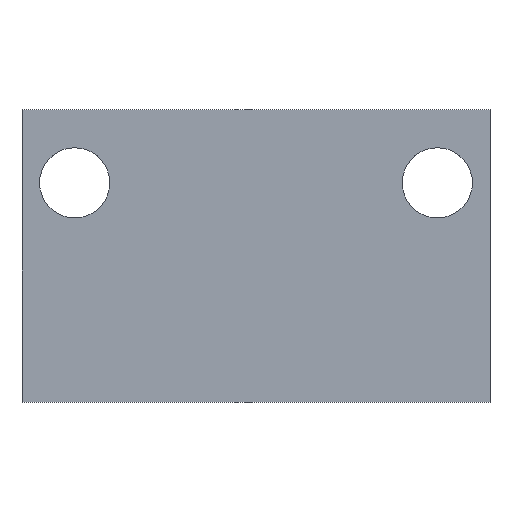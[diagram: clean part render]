
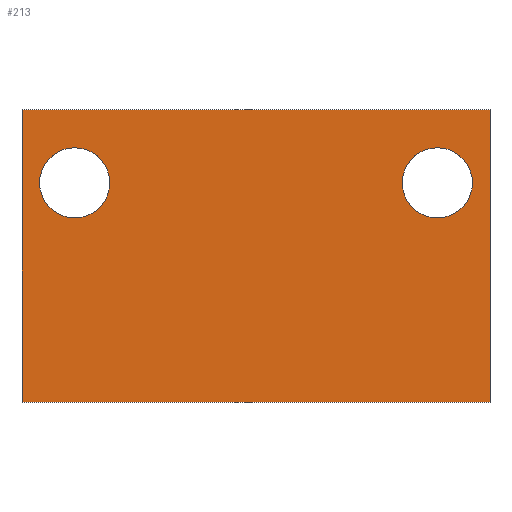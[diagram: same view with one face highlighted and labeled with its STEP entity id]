
A CAD part, top view. The second image highlights one B-rep face of the part: STEP entity #213.
In plain terms, the highlighted planar face has unit normal (0, 0, 1).
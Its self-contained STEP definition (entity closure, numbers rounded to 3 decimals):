
#24 = VERTEX_POINT('',#25);
#25 = CARTESIAN_POINT('',(8.,10.,9.));
#32 = PLANE('',#33);
#33 = AXIS2_PLACEMENT_3D('',#34,#35,#36);
#34 = CARTESIAN_POINT('',(8.,10.,8.));
#35 = DIRECTION('',(-1.,-0.,0.));
#36 = DIRECTION('',(0.,0.,-1.));
#44 = PLANE('',#45);
#45 = AXIS2_PLACEMENT_3D('',#46,#47,#48);
#46 = CARTESIAN_POINT('',(8.,10.,8.));
#47 = DIRECTION('',(-0.,1.,0.));
#48 = DIRECTION('',(0.,0.,-1.));
#85 = VERTEX_POINT('',#86);
#86 = CARTESIAN_POINT('',(8.,20.,9.));
#100 = PLANE('',#101);
#101 = AXIS2_PLACEMENT_3D('',#102,#103,#104);
#102 = CARTESIAN_POINT('',(8.,20.,8.));
#103 = DIRECTION('',(-0.,1.,0.));
#104 = DIRECTION('',(0.,0.,-1.));
#112 = EDGE_CURVE('',#24,#85,#113,.T.);
#113 = SURFACE_CURVE('',#114,(#118,#125),.PCURVE_S1.);
#114 = LINE('',#115,#116);
#115 = CARTESIAN_POINT('',(8.,10.,9.));
#116 = VECTOR('',#117,1.);
#117 = DIRECTION('',(-0.,1.,0.));
#118 = PCURVE('',#32,#119);
#119 = DEFINITIONAL_REPRESENTATION('',(#120),#124);
#120 = LINE('',#121,#122);
#121 = CARTESIAN_POINT('',(-1.,-0.));
#122 = VECTOR('',#123,1.);
#123 = DIRECTION('',(-0.,-1.));
#124 = ( GEOMETRIC_REPRESENTATION_CONTEXT(2) 
PARAMETRIC_REPRESENTATION_CONTEXT() REPRESENTATION_CONTEXT('2D SPACE',''
  ) );
#125 = PCURVE('',#126,#131);
#126 = PLANE('',#127);
#127 = AXIS2_PLACEMENT_3D('',#128,#129,#130);
#128 = CARTESIAN_POINT('',(8.,10.,9.));
#129 = DIRECTION('',(0.,0.,1.));
#130 = DIRECTION('',(1.,0.,0.));
#131 = DEFINITIONAL_REPRESENTATION('',(#132),#136);
#132 = LINE('',#133,#134);
#133 = CARTESIAN_POINT('',(0.,-0.));
#134 = VECTOR('',#135,1.);
#135 = DIRECTION('',(-0.,1.));
#136 = ( GEOMETRIC_REPRESENTATION_CONTEXT(2) 
PARAMETRIC_REPRESENTATION_CONTEXT() REPRESENTATION_CONTEXT('2D SPACE',''
  ) );
#165 = EDGE_CURVE('',#24,#166,#168,.T.);
#166 = VERTEX_POINT('',#167);
#167 = CARTESIAN_POINT('',(-8.,10.,9.));
#168 = SURFACE_CURVE('',#169,(#173,#180),.PCURVE_S1.);
#169 = LINE('',#170,#171);
#170 = CARTESIAN_POINT('',(8.,10.,9.));
#171 = VECTOR('',#172,1.);
#172 = DIRECTION('',(-1.,-0.,0.));
#173 = PCURVE('',#44,#174);
#174 = DEFINITIONAL_REPRESENTATION('',(#175),#179);
#175 = LINE('',#176,#177);
#176 = CARTESIAN_POINT('',(-1.,-0.));
#177 = VECTOR('',#178,1.);
#178 = DIRECTION('',(-0.,1.));
#179 = ( GEOMETRIC_REPRESENTATION_CONTEXT(2) 
PARAMETRIC_REPRESENTATION_CONTEXT() REPRESENTATION_CONTEXT('2D SPACE',''
  ) );
#180 = PCURVE('',#126,#181);
#181 = DEFINITIONAL_REPRESENTATION('',(#182),#186);
#182 = LINE('',#183,#184);
#183 = CARTESIAN_POINT('',(0.,-0.));
#184 = VECTOR('',#185,1.);
#185 = DIRECTION('',(-1.,0.));
#186 = ( GEOMETRIC_REPRESENTATION_CONTEXT(2) 
PARAMETRIC_REPRESENTATION_CONTEXT() REPRESENTATION_CONTEXT('2D SPACE',''
  ) );
#202 = PLANE('',#203);
#203 = AXIS2_PLACEMENT_3D('',#204,#205,#206);
#204 = CARTESIAN_POINT('',(-8.,10.,8.));
#205 = DIRECTION('',(-1.,-0.,0.));
#206 = DIRECTION('',(0.,0.,-1.));
#213 = ADVANCED_FACE('',(#214,#262,#297),#126,.T.);
#214 = FACE_BOUND('',#215,.F.);
#215 = EDGE_LOOP('',(#216,#217,#218,#241));
#216 = ORIENTED_EDGE('',*,*,#112,.F.);
#217 = ORIENTED_EDGE('',*,*,#165,.T.);
#218 = ORIENTED_EDGE('',*,*,#219,.T.);
#219 = EDGE_CURVE('',#166,#220,#222,.T.);
#220 = VERTEX_POINT('',#221);
#221 = CARTESIAN_POINT('',(-8.,20.,9.));
#222 = SURFACE_CURVE('',#223,(#227,#234),.PCURVE_S1.);
#223 = LINE('',#224,#225);
#224 = CARTESIAN_POINT('',(-8.,10.,9.));
#225 = VECTOR('',#226,1.);
#226 = DIRECTION('',(-0.,1.,0.));
#227 = PCURVE('',#126,#228);
#228 = DEFINITIONAL_REPRESENTATION('',(#229),#233);
#229 = LINE('',#230,#231);
#230 = CARTESIAN_POINT('',(-16.,0.));
#231 = VECTOR('',#232,1.);
#232 = DIRECTION('',(-0.,1.));
#233 = ( GEOMETRIC_REPRESENTATION_CONTEXT(2) 
PARAMETRIC_REPRESENTATION_CONTEXT() REPRESENTATION_CONTEXT('2D SPACE',''
  ) );
#234 = PCURVE('',#202,#235);
#235 = DEFINITIONAL_REPRESENTATION('',(#236),#240);
#236 = LINE('',#237,#238);
#237 = CARTESIAN_POINT('',(-1.,-0.));
#238 = VECTOR('',#239,1.);
#239 = DIRECTION('',(-0.,-1.));
#240 = ( GEOMETRIC_REPRESENTATION_CONTEXT(2) 
PARAMETRIC_REPRESENTATION_CONTEXT() REPRESENTATION_CONTEXT('2D SPACE',''
  ) );
#241 = ORIENTED_EDGE('',*,*,#242,.F.);
#242 = EDGE_CURVE('',#85,#220,#243,.T.);
#243 = SURFACE_CURVE('',#244,(#248,#255),.PCURVE_S1.);
#244 = LINE('',#245,#246);
#245 = CARTESIAN_POINT('',(8.,20.,9.));
#246 = VECTOR('',#247,1.);
#247 = DIRECTION('',(-1.,-0.,0.));
#248 = PCURVE('',#126,#249);
#249 = DEFINITIONAL_REPRESENTATION('',(#250),#254);
#250 = LINE('',#251,#252);
#251 = CARTESIAN_POINT('',(0.,10.));
#252 = VECTOR('',#253,1.);
#253 = DIRECTION('',(-1.,0.));
#254 = ( GEOMETRIC_REPRESENTATION_CONTEXT(2) 
PARAMETRIC_REPRESENTATION_CONTEXT() REPRESENTATION_CONTEXT('2D SPACE',''
  ) );
#255 = PCURVE('',#100,#256);
#256 = DEFINITIONAL_REPRESENTATION('',(#257),#261);
#257 = LINE('',#258,#259);
#258 = CARTESIAN_POINT('',(-1.,-0.));
#259 = VECTOR('',#260,1.);
#260 = DIRECTION('',(-0.,1.));
#261 = ( GEOMETRIC_REPRESENTATION_CONTEXT(2) 
PARAMETRIC_REPRESENTATION_CONTEXT() REPRESENTATION_CONTEXT('2D SPACE',''
  ) );
#262 = FACE_BOUND('',#263,.F.);
#263 = EDGE_LOOP('',(#264));
#264 = ORIENTED_EDGE('',*,*,#265,.F.);
#265 = EDGE_CURVE('',#266,#266,#268,.T.);
#266 = VERTEX_POINT('',#267);
#267 = CARTESIAN_POINT('',(5.,17.5,9.));
#268 = SURFACE_CURVE('',#269,(#274,#285),.PCURVE_S1.);
#269 = CIRCLE('',#270,1.2);
#270 = AXIS2_PLACEMENT_3D('',#271,#272,#273);
#271 = CARTESIAN_POINT('',(6.2,17.5,9.));
#272 = DIRECTION('',(0.,0.,-1.));
#273 = DIRECTION('',(-1.,-0.,-0.));
#274 = PCURVE('',#126,#275);
#275 = DEFINITIONAL_REPRESENTATION('',(#276),#284);
#276 = ( BOUNDED_CURVE() B_SPLINE_CURVE(2,(#277,#278,#279,#280,#281,#282
,#283),.UNSPECIFIED.,.T.,.F.) B_SPLINE_CURVE_WITH_KNOTS((1,2,2,2,2,1),(
    -2.094,0.,2.094,4.189,6.283,
8.378),.UNSPECIFIED.) CURVE() GEOMETRIC_REPRESENTATION_ITEM() 
RATIONAL_B_SPLINE_CURVE((1.,0.5,1.,0.5,1.,0.5,1.)) REPRESENTATION_ITEM(
  '') );
#277 = CARTESIAN_POINT('',(-3.,7.5));
#278 = CARTESIAN_POINT('',(-3.,9.578));
#279 = CARTESIAN_POINT('',(-1.2,8.539));
#280 = CARTESIAN_POINT('',(0.6,7.5));
#281 = CARTESIAN_POINT('',(-1.2,6.461));
#282 = CARTESIAN_POINT('',(-3.,5.422));
#283 = CARTESIAN_POINT('',(-3.,7.5));
#284 = ( GEOMETRIC_REPRESENTATION_CONTEXT(2) 
PARAMETRIC_REPRESENTATION_CONTEXT() REPRESENTATION_CONTEXT('2D SPACE',''
  ) );
#285 = PCURVE('',#286,#291);
#286 = CYLINDRICAL_SURFACE('',#287,1.2);
#287 = AXIS2_PLACEMENT_3D('',#288,#289,#290);
#288 = CARTESIAN_POINT('',(6.2,17.5,7.));
#289 = DIRECTION('',(-0.,-0.,1.));
#290 = DIRECTION('',(-1.,-0.,-0.));
#291 = DEFINITIONAL_REPRESENTATION('',(#292),#296);
#292 = LINE('',#293,#294);
#293 = CARTESIAN_POINT('',(-0.,2.));
#294 = VECTOR('',#295,1.);
#295 = DIRECTION('',(-1.,0.));
#296 = ( GEOMETRIC_REPRESENTATION_CONTEXT(2) 
PARAMETRIC_REPRESENTATION_CONTEXT() REPRESENTATION_CONTEXT('2D SPACE',''
  ) );
#297 = FACE_BOUND('',#298,.F.);
#298 = EDGE_LOOP('',(#299));
#299 = ORIENTED_EDGE('',*,*,#300,.F.);
#300 = EDGE_CURVE('',#301,#301,#303,.T.);
#301 = VERTEX_POINT('',#302);
#302 = CARTESIAN_POINT('',(-7.4,17.5,9.));
#303 = SURFACE_CURVE('',#304,(#309,#320),.PCURVE_S1.);
#304 = CIRCLE('',#305,1.2);
#305 = AXIS2_PLACEMENT_3D('',#306,#307,#308);
#306 = CARTESIAN_POINT('',(-6.2,17.5,9.));
#307 = DIRECTION('',(0.,0.,-1.));
#308 = DIRECTION('',(-1.,-0.,-0.));
#309 = PCURVE('',#126,#310);
#310 = DEFINITIONAL_REPRESENTATION('',(#311),#319);
#311 = ( BOUNDED_CURVE() B_SPLINE_CURVE(2,(#312,#313,#314,#315,#316,#317
,#318),.UNSPECIFIED.,.T.,.F.) B_SPLINE_CURVE_WITH_KNOTS((1,2,2,2,2,1),(
    -2.094,0.,2.094,4.189,6.283,
8.378),.UNSPECIFIED.) CURVE() GEOMETRIC_REPRESENTATION_ITEM() 
RATIONAL_B_SPLINE_CURVE((1.,0.5,1.,0.5,1.,0.5,1.)) REPRESENTATION_ITEM(
  '') );
#312 = CARTESIAN_POINT('',(-15.4,7.5));
#313 = CARTESIAN_POINT('',(-15.4,9.578));
#314 = CARTESIAN_POINT('',(-13.6,8.539));
#315 = CARTESIAN_POINT('',(-11.8,7.5));
#316 = CARTESIAN_POINT('',(-13.6,6.461));
#317 = CARTESIAN_POINT('',(-15.4,5.422));
#318 = CARTESIAN_POINT('',(-15.4,7.5));
#319 = ( GEOMETRIC_REPRESENTATION_CONTEXT(2) 
PARAMETRIC_REPRESENTATION_CONTEXT() REPRESENTATION_CONTEXT('2D SPACE',''
  ) );
#320 = PCURVE('',#321,#326);
#321 = CYLINDRICAL_SURFACE('',#322,1.2);
#322 = AXIS2_PLACEMENT_3D('',#323,#324,#325);
#323 = CARTESIAN_POINT('',(-6.2,17.5,7.));
#324 = DIRECTION('',(-0.,-0.,1.));
#325 = DIRECTION('',(-1.,-0.,-0.));
#326 = DEFINITIONAL_REPRESENTATION('',(#327),#331);
#327 = LINE('',#328,#329);
#328 = CARTESIAN_POINT('',(-0.,2.));
#329 = VECTOR('',#330,1.);
#330 = DIRECTION('',(-1.,0.));
#331 = ( GEOMETRIC_REPRESENTATION_CONTEXT(2) 
PARAMETRIC_REPRESENTATION_CONTEXT() REPRESENTATION_CONTEXT('2D SPACE',''
  ) );
